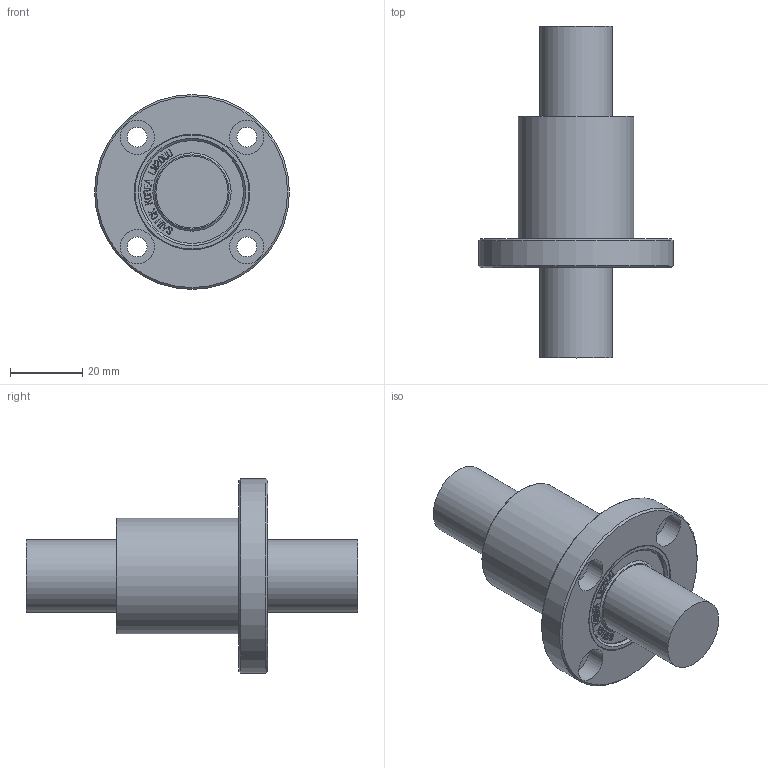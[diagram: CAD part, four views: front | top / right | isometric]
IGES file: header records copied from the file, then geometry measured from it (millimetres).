
Global section: file name: No Iges File Name specified; native system: Autodesk Inventor 2012; preprocessor: AutoDesk Inventor Iges Exporter R2012; author: user2; date: 20130206.160326; units: millimetre
Bounding box: 54 x 92 x 54 mm (x, y, z)
Volume: 58976 mm3; surface area: 13261.6 mm2
Topology: 1 solids, 1 shells, 843 faces, 2351 edges, 1566 vertices
Faces by surface type: bspline 592, plane 228, revolution 13, cone 4, cylinder 4, torus 2
Full cylindrical faces by diameter (mm): 20 x2, 32 x1, 54 x1
